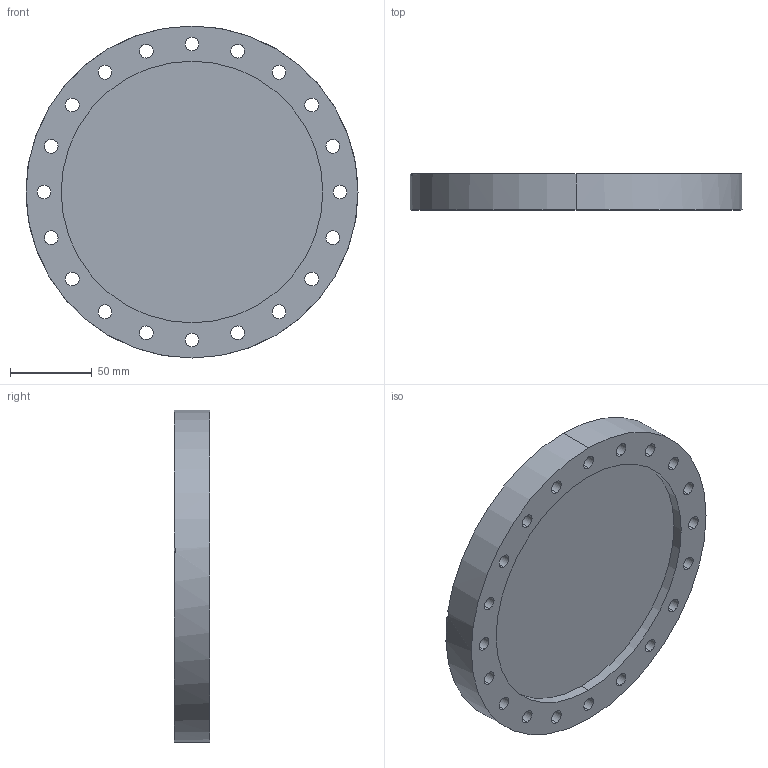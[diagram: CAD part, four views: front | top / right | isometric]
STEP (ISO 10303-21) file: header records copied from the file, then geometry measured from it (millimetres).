
FILE_DESCRIPTION (( 'STEP AP214' ), '1' );
FILE_NAME ('W6BCFD160.STEP', '2021-09-16T09:04:58', ( '' ), ( '' ), 'SwSTEP 2.0', 'SolidWorks 2020', '' );
FILE_SCHEMA (( 'AUTOMOTIVE_DESIGN' ));
Length unit declared in the file: millimetre
Products named in the file (1): W6BCFD160
Bounding box: 203 x 22 x 203 mm (x, y, z)
Volume: 533580.1 mm3; surface area: 113505.8 mm2
Topology: 2 solids, 2 shells, 70 faces, 184 edges, 120 vertices
Faces by surface type: cylinder 52, plane 8, cone 6, torus 4
Entity records: 2411 total; most frequent: CARTESIAN_POINT 443, DIRECTION 442, ORIENTED_EDGE 368, AXIS2_PLACEMENT_3D 191, EDGE_CURVE 184, CIRCLE 120, VERTEX_POINT 120, EDGE_LOOP 114
